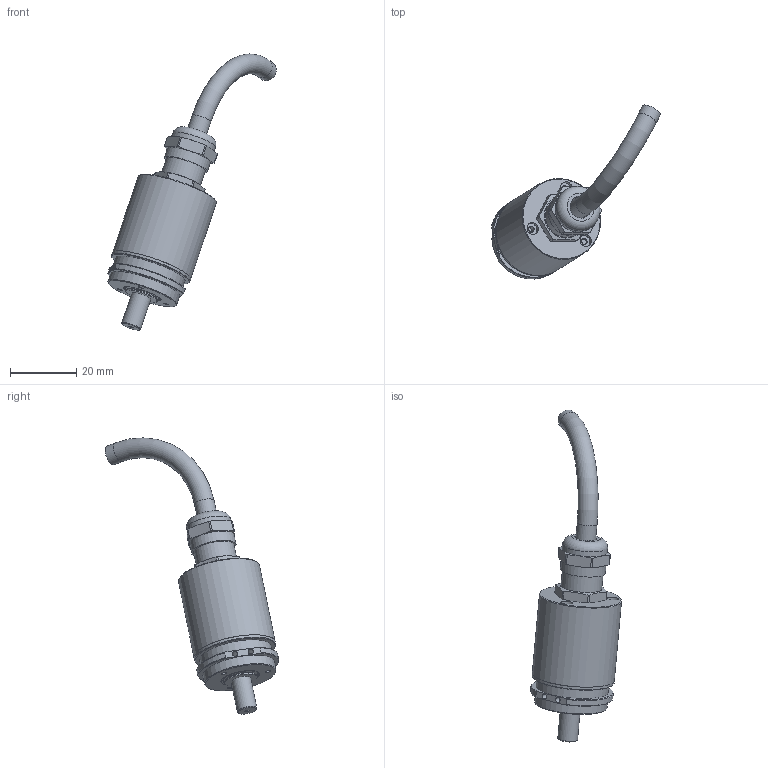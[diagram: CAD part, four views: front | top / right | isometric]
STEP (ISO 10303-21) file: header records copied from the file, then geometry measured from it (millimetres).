
FILE_DESCRIPTION(/* description */ (''),/* implementation_level */ '2;1');
FILE_NAME(/* name */ 'C:\Users\hnc\Desktop\엔코더\Sahft Type\S25\S25B_32_31_1.28(WIRE)\S25B_32_31_1.28(WIRE).stp',/* time_stamp */ '2023-05-28T16:27:40+09:00',/* author */ ('hnc'),/* organization */ (''),/* preprocessor_version */ 'ST-DEVELOPER v18.1',/* originating_system */ 'Autodesk Inventor 2021',/* authorisation */ '');
FILE_SCHEMA (('AUTOMOTIVE_DESIGN { 1 0 10303 214 3 1 1 }'));
Length unit declared in the file: millimetre
Products named in the file (11): H40A_32_31_1.28; 1-BASE; 2-Shaft; 4-Case; 3-Encoder_Base; 10-PCB_SPT; 13-Magnet; AL_BASE; MR128ZZ; Open CASCADE STEP translator 6.8 5.1.1; PRE_M12X1_5
Assembly tree (12 placements, depth 2):
  H40A_32_31_1.28
    1-BASE
    2-Shaft
    4-Case
    3-Encoder_Base
    10-PCB_SPT
    13-Magnet
    AL_BASE
    MR128ZZ  x2
    Open CASCADE STEP translator 6.8 5.1.1  x2
    PRE_M12X1_5
Bounding box: 51.09 x 52.57 x 83.61 mm (x, y, z)
Volume: 15607.6 mm3; surface area: 18505.4 mm2
Topology: 185 solids, 185 shells, 1088 faces, 2434 edges, 1655 vertices
Faces by surface type: plane 604, cylinder 389, cone 40, sphere 40, torus 15
Full cylindrical faces by diameter (mm): 0.829 x4, 1.221 x8, 1.5 x2, 1.567 x7, 1.8 x9, 2.2 x16, 3.6 x3, 6 x3, 6.5 x1, 6.8 x1, 7 x1, 8 x4, 8.19 x1, 8.5 x1, 8.889 x8, 9 x3, 9.333 x4, 9.9 x2, 10 x1, 10.4 x2, 10.667 x4, 11.111 x8, 11.8 x1, 12 x5, 12.4 x1, 13.7 x2, 16.6 x1, 17 x1, 17.1 x1, 17.5 x1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
Entity records: 29633 total; most frequent: CARTESIAN_POINT 5386, DIRECTION 5147, ORIENTED_EDGE 4408, EDGE_CURVE 2204, AXIS2_PLACEMENT_3D 1974, VERTEX_POINT 1530, LINE 1199, VECTOR 1199
